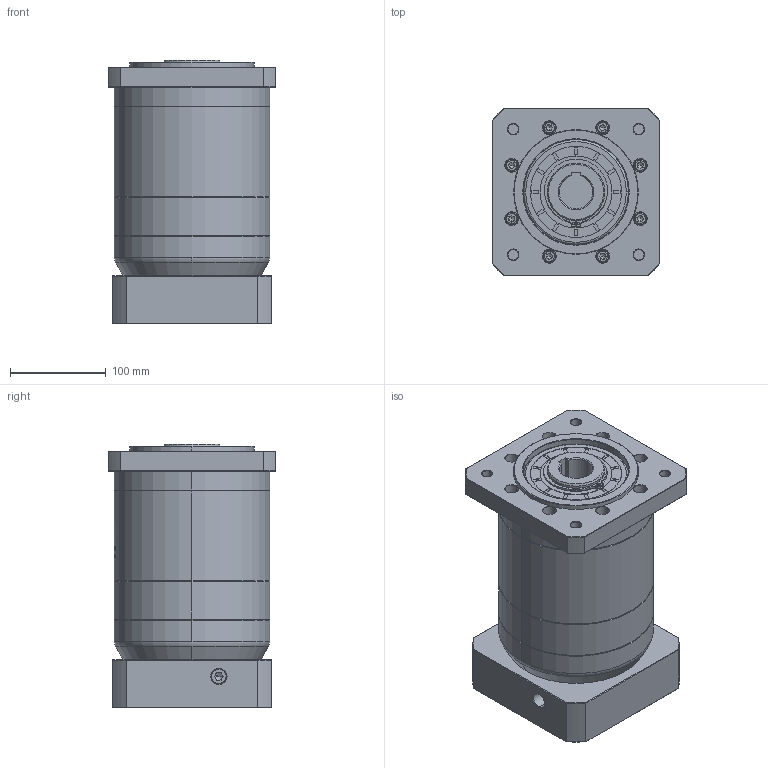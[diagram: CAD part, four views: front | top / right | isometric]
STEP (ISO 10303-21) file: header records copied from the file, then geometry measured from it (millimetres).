
FILE_DESCRIPTION (( 'STEP AP214' ), '1' );
FILE_NAME ('ZF160-K35-L3-32-130-165-M10.step', '2023-03-21T04:33:32', ( '' ), ( '' ), 'SwSTEP 2.0', 'SolidWorks 2016', '' );
FILE_SCHEMA (( 'AUTOMOTIVE_DESIGN' ));
Length unit declared in the file: millimetre
Products named in the file (1): ZF160-K35-L3-32-130-165-M10
Bounding box: 175 x 175 x 274.2 mm (x, y, z)
Volume: 5524126.3 mm3; surface area: 367934 mm2
Topology: 6 solids, 6 shells, 1583 faces, 4115 edges, 2635 vertices
Faces by surface type: plane 637, cylinder 391, cone 322, bspline 211, torus 22
Entity records: 86669 total; most frequent: CARTESIAN_POINT 32520, ORIENTED_EDGE 8174, DIRECTION 6975, EDGE_CURVE 4087, VERTEX_POINT 2635, AXIS2_PLACEMENT_3D 2418, LINE 2139, VECTOR 2139
